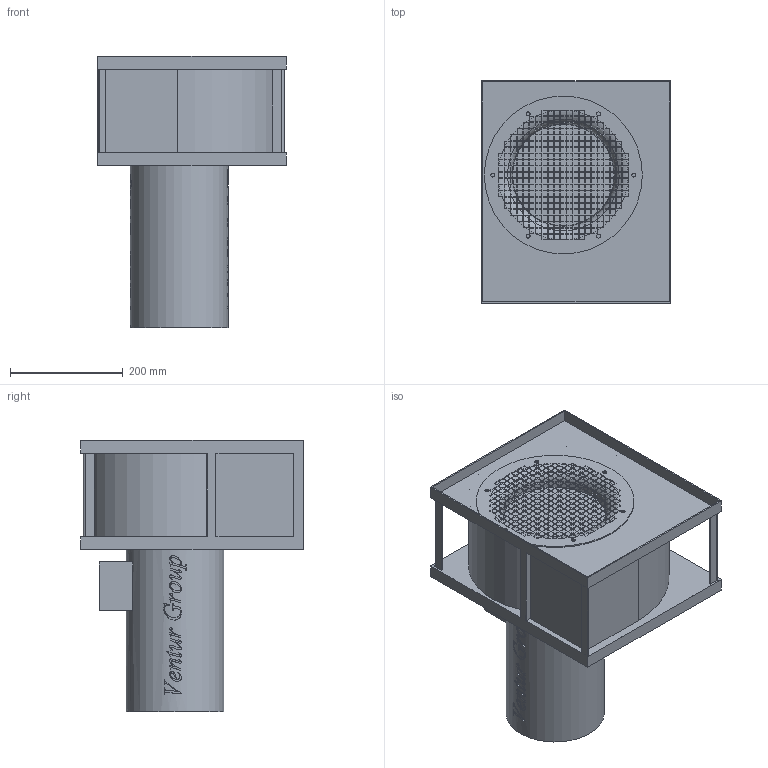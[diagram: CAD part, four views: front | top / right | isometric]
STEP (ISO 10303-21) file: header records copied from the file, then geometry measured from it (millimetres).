
FILE_DESCRIPTION(/* description */ (''),/* implementation_level */ '2;1');
FILE_NAME(/* name */ 'E:\Mariusz\Modele uproszczone\LFB\LFB_2_224_104 435011020\LFB_2_224_104 435011020\LFB_2_224_104 435011020.stp',/* time_stamp */ '2018-07-05T09:44:20+02:00',/* author */ ('M.Janczarek'),/* organization */ (''),/* preprocessor_version */ 'ST-DEVELOPER v16.5',/* originating_system */ 'Autodesk Inventor 2017',/* authorisation */ '');
FILE_SCHEMA (('AUTOMOTIVE_DESIGN { 1 0 10303 214 3 1 1 }'));
Products named in the file (1): LFB_2_224_104 435011020
Bounding box: 335 x 394 x 481 mm (x, y, z)
Volume: 22525308.7 mm3; surface area: 911603.8 mm2
Topology: 1 solids, 1 shells, 2033 faces, 6013 edges, 3973 vertices
Faces by surface type: plane 1583, bspline 379, cylinder 68, torus 3
Full cylindrical faces by diameter (mm): 7.1 x6, 173.6 x1, 265 x1, 280 x1
Entity records: 76200 total; most frequent: CARTESIAN_POINT 21148, ORIENTED_EDGE 11986, DIRECTION 8954, EDGE_CURVE 5993, LINE 5038, VECTOR 5038, VERTEX_POINT 3965, EDGE_LOOP 2738
